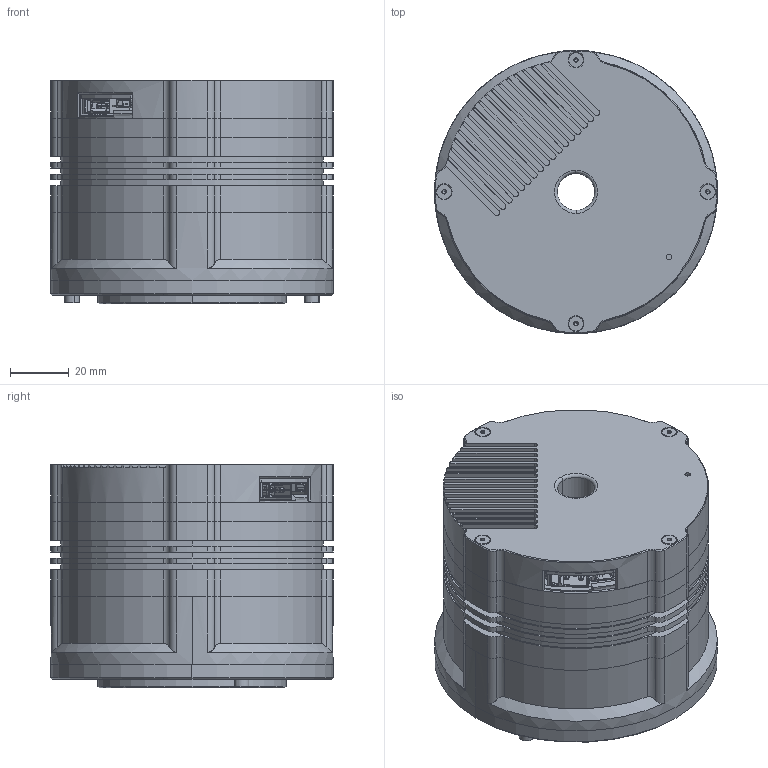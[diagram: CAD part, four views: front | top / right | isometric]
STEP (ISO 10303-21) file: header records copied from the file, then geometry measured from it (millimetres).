
FILE_DESCRIPTION (( 'STEP AP203' ), '1' );
FILE_NAME ('X8-P20-120.STEP', '2025-09-13T03:36:21', ( '微软用户' ), ( '微软中国' ), 'SwSTEP 2.0', 'SolidWorks 2020', '' );
FILE_SCHEMA (( 'CONFIG_CONTROL_DESIGN' ));
Length unit declared in the file: millimetre
Products named in the file (1): X8-P20-120
Bounding box: 96 x 96 x 76 mm (x, y, z)
Surface area: 74095.8 mm2 (no closed solid volume)
Topology: 0 solids, 51 shells, 786 faces, 2886 edges, 2115 vertices
Faces by surface type: cylinder 350, plane 283, cone 133, sphere 16, torus 4
Entity records: 32498 total; most frequent: CARTESIAN_POINT 7554, DIRECTION 5537, ORIENTED_EDGE 4508, EDGE_CURVE 2866, AXIS2_PLACEMENT_3D 2136, VERTEX_POINT 2115, CIRCLE 1349, LINE 1265
